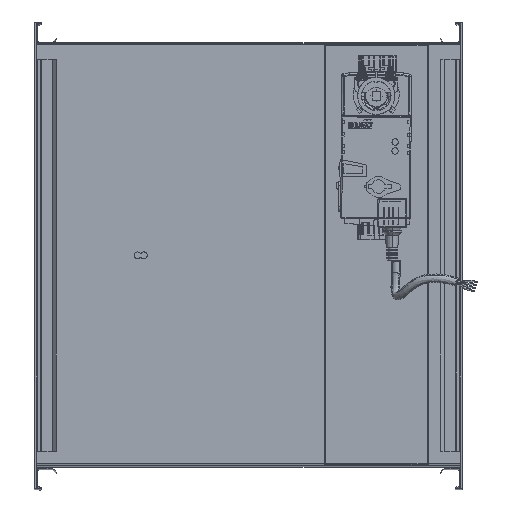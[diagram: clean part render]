
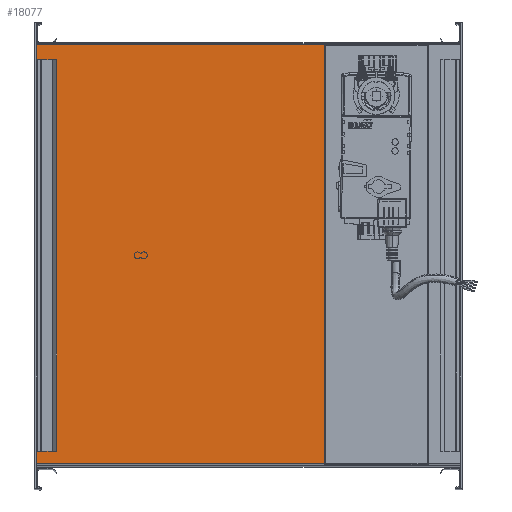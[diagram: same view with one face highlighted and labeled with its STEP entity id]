
A CAD part, top view. The second image highlights one B-rep face of the part: STEP entity #18077.
In plain terms, the highlighted planar face has unit normal (0, 0, 1).
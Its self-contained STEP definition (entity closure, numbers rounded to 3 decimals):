
#2588 = ORIENTED_EDGE ( 'NONE', *, *, #27131, .T. ) ;
#4300 = EDGE_CURVE ( 'NONE', #6695, #56868, #75310, .T. ) ;
#6695 = VERTEX_POINT ( 'NONE', #39651 ) ;
#11262 = VERTEX_POINT ( 'NONE', #43153 ) ;
#11292 = CARTESIAN_POINT ( 'NONE',  ( -244.423, -183.848, 1450. ) ) ;
#18021 = CARTESIAN_POINT ( 'NONE',  ( -244.423, -183.848, 1450. ) ) ;
#18077 = ADVANCED_FACE ( 'NONE', ( #36436 ), #86754, .T. ) ;
#18671 = CARTESIAN_POINT ( 'NONE',  ( 27.325, -183.848, 1450. ) ) ;
#22281 = ORIENTED_EDGE ( 'NONE', *, *, #84433, .F. ) ;
#22380 = CARTESIAN_POINT ( 'NONE',  ( -244.423, -183.848, 1450. ) ) ;
#27131 = EDGE_CURVE ( 'NONE', #11262, #6695, #90210, .T. ) ;
#33339 = VERTEX_POINT ( 'NONE', #82481 ) ;
#36436 = FACE_OUTER_BOUND ( 'NONE', #84069, .T. ) ;
#39651 = CARTESIAN_POINT ( 'NONE',  ( -244.423, -183.848, 1450. ) ) ;
#40970 = VECTOR ( 'NONE', #67742, 1000. ) ;
#41519 = LINE ( 'NONE', #70180, #43775 ) ;
#41741 = EDGE_CURVE ( 'NONE', #11262, #33339, #41519, .T. ) ;
#43153 = CARTESIAN_POINT ( 'NONE',  ( -244.423, 212.152, 1450. ) ) ;
#43775 = VECTOR ( 'NONE', #63136, 1000. ) ;
#52593 = DIRECTION ( 'NONE',  ( 0., -1., 0. ) ) ;
#56868 = VERTEX_POINT ( 'NONE', #18671 ) ;
#61904 = AXIS2_PLACEMENT_3D ( 'NONE', #22380, #79703, #72615 ) ;
#63136 = DIRECTION ( 'NONE',  ( 1., 0., 0. ) ) ;
#67742 = DIRECTION ( 'NONE',  ( 1., 0., 0. ) ) ;
#70180 = CARTESIAN_POINT ( 'NONE',  ( -244.423, 212.152, 1450. ) ) ;
#70708 = DIRECTION ( 'NONE',  ( 0., -1., 0. ) ) ;
#72262 = ORIENTED_EDGE ( 'NONE', *, *, #4300, .T. ) ;
#72615 = DIRECTION ( 'NONE',  ( 1., 0., 0. ) ) ;
#75310 = LINE ( 'NONE', #18021, #40970 ) ;
#77082 = ORIENTED_EDGE ( 'NONE', *, *, #41741, .F. ) ;
#78222 = VECTOR ( 'NONE', #52593, 1000. ) ;
#79068 = VECTOR ( 'NONE', #70708, 1000. ) ;
#79703 = DIRECTION ( 'NONE',  ( 0., 0., 1. ) ) ;
#82481 = CARTESIAN_POINT ( 'NONE',  ( 27.325, 212.152, 1450. ) ) ;
#84069 = EDGE_LOOP ( 'NONE', ( #72262, #22281, #77082, #2588 ) ) ;
#84433 = EDGE_CURVE ( 'NONE', #33339, #56868, #90998, .T. ) ;
#86754 = PLANE ( 'NONE',  #61904 ) ;
#90210 = LINE ( 'NONE', #11292, #78222 ) ;
#90998 = LINE ( 'NONE', #92390, #79068 ) ;
#92390 = CARTESIAN_POINT ( 'NONE',  ( 27.325, -184.847, 1450. ) ) ;
